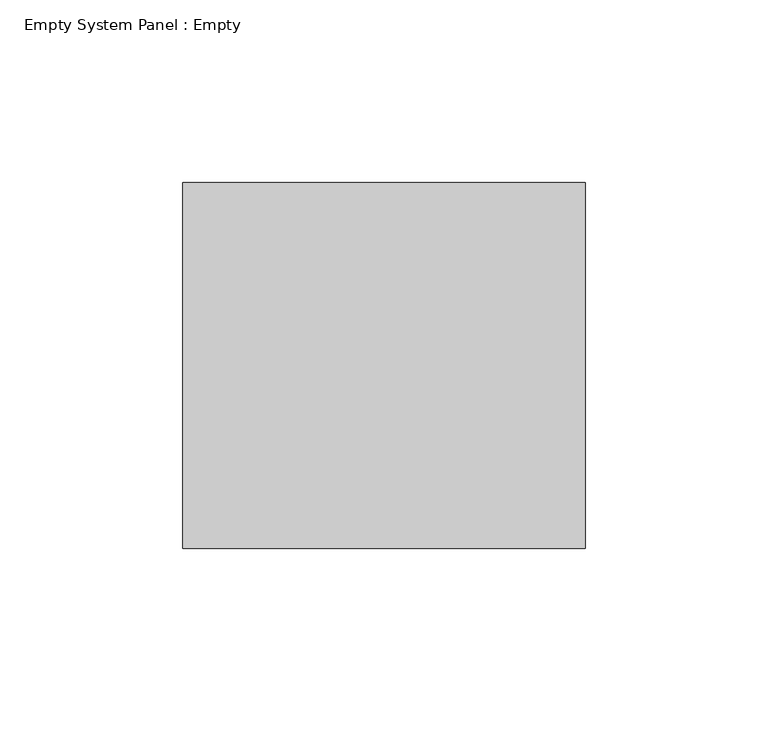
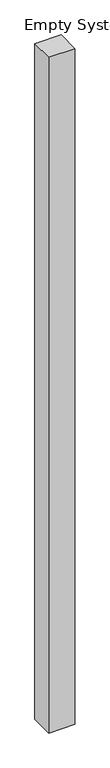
"""IFC4 building model written with IfcOpenShell, lengths in millimetres: plate geometry, Empty System Panel : Empty."""

from ifc_helpers import new_model, si_unit, origin, origin_with_axes, place, context, project, spatial, polyline, outline, extrude, source, transform, mapped, element, save


def empty_system_panel_empty_6da6c4cd(model_context):
    return source(origin(), model_context, "Body", "SweptSolid", [
        extrude(outline(polyline([(55.0, 50.0), (-55.0, 50.0), (-55.0, 150.0), (55.0, 150.0), (55.0, 50.0)])), origin_with_axes(), (0.0, 0.0, 1.0), 3000.0),
    ])


if __name__ == "__main__":
    model = new_model("IFC4")
    model_context = context("Model", 3, world=origin())
    ifc_project = project(units=[si_unit("LENGTHUNIT", "METRE", prefix="MILLI")], contexts=[model_context])
    site = spatial("IfcSite", under=ifc_project)
    building = spatial("IfcBuilding", under=site)
    placement = place(None, origin())
    empty_system_panel_empty_shape = empty_system_panel_empty_6da6c4cd(model_context)
    element("IfcPlate", 1, ObjectType="Empty System Panel : Empty", at=placement, inside=building, context=model_context, shape_type="MappedRepresentation", body=[
        mapped(empty_system_panel_empty_shape, transform((0.0, 0.0, 0.0), x_axis=(1.0, 0.0, 0.0), y_axis=(0.0, 1.0, 0.0), z_axis=(0.0, 0.0, 1.0))),
    ])
    save(model, "model.ifc")
